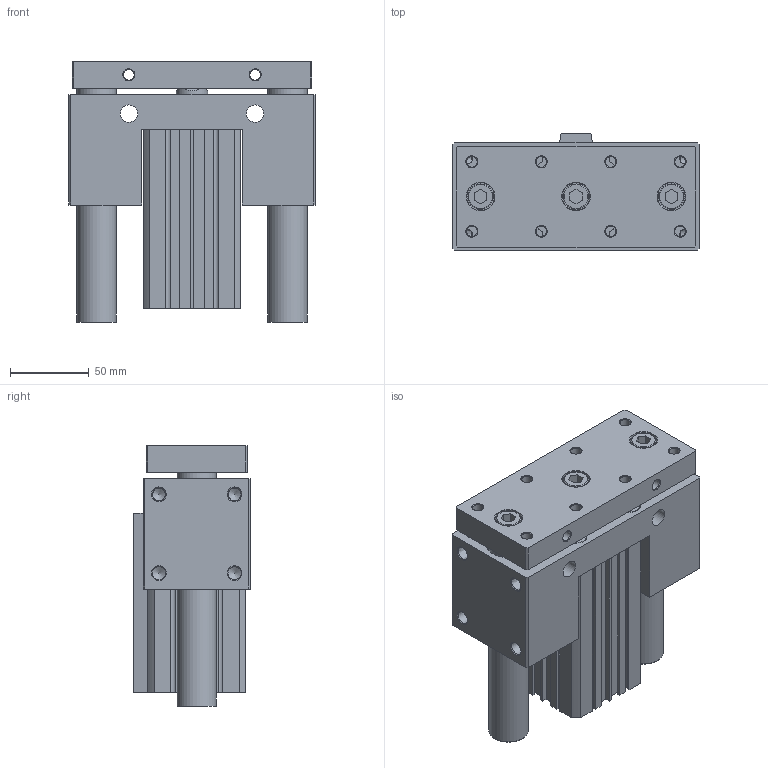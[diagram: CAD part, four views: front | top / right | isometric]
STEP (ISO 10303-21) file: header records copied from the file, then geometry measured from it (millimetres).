
FILE_DESCRIPTION((''),'2;1');
FILE_NAME('I:\3D電子目錄\氣缸\JCB\JCB\JCB50-S\JCB50x75-S.stp','2007-08-30T16:34:59',('Administrator'),(''),'Autodesk Inventor 11','Autodesk Inventor 11','');
FILE_SCHEMA(('AUTOMOTIVE_DESIGN { 1 0 10303 214 1 1 1 1 }'));
Length unit declared in the file: millimetre
Products named in the file (1): JCB50
Bounding box: 156 x 74 x 165.5 mm (x, y, z)
Volume: 1112323.9 mm3; surface area: 195942 mm2
Topology: 3 solids, 3 shells, 328 faces, 786 edges, 510 vertices
Faces by surface type: plane 190, cylinder 58, cone 45, bspline 31, torus 4
Full cylindrical faces by diameter (mm): 2.7 x2, 6.8 x4, 8.376 x4, 11 x8, 13 x4, 14 x4, 16 x3, 17.5 x3, 20 x1, 21 x1, 25 x2, 28 x2, 37 x1, 38 x1, 52 x4, 55 x2
Entity records: 9390 total; most frequent: CARTESIAN_POINT 2294, DIRECTION 1434, ORIENTED_EDGE 1264, EDGE_CURVE 632, EDGE_LOOP 536, AXIS2_PLACEMENT_3D 512, VERTEX_POINT 480, VECTOR 410
